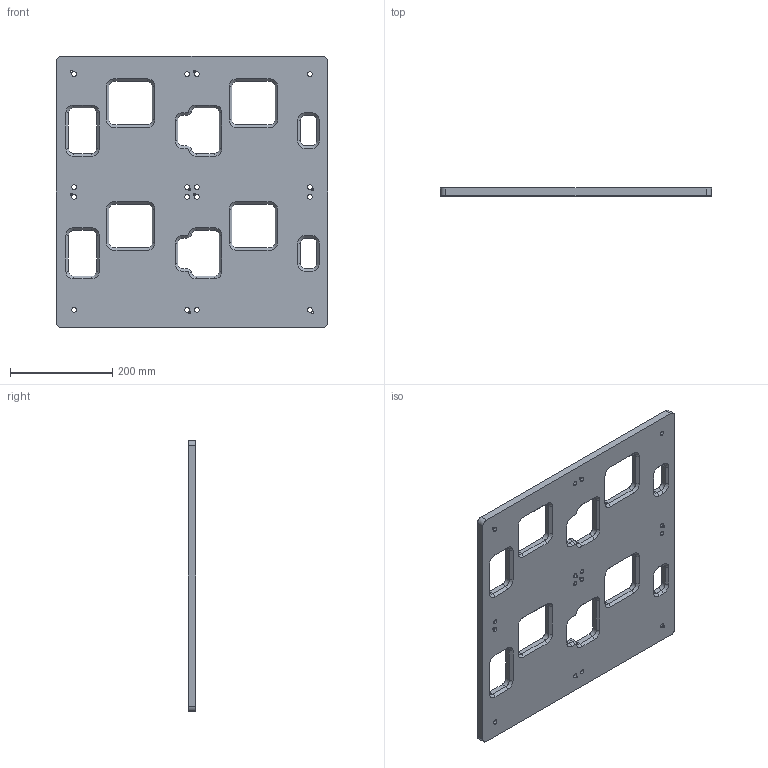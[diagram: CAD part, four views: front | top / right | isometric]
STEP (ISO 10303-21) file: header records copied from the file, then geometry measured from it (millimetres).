
FILE_DESCRIPTION (( 'STEP AP214' ), '1' );
FILE_NAME ('S3-AS-4.8 Flyway Mounting Plate Example 2X2 Rev1, Through Hole Option.STEP', '2025-08-13T23:08:01', ( '' ), ( '' ), 'SwSTEP 2.0', 'SolidWorks 2022', '' );
FILE_SCHEMA (( 'AUTOMOTIVE_DESIGN' ));
Length unit declared in the file: millimetre
Products named in the file (1): S3-AS-4.8 Flyway Mounting Plate Example 2X2 Rev1, Through Hole Option
Bounding box: 530 x 15 x 530 mm (x, y, z)
Volume: 3336320.4 mm3; surface area: 523541.8 mm2
Topology: 1 solids, 1 shells, 384 faces, 1036 edges, 660 vertices
Faces by surface type: plane 236, cylinder 100, cone 48
Entity records: 12137 total; most frequent: CARTESIAN_POINT 2081, ORIENTED_EDGE 2072, DIRECTION 2054, EDGE_CURVE 1036, LINE 788, VECTOR 788, VERTEX_POINT 660, AXIS2_PLACEMENT_3D 633
